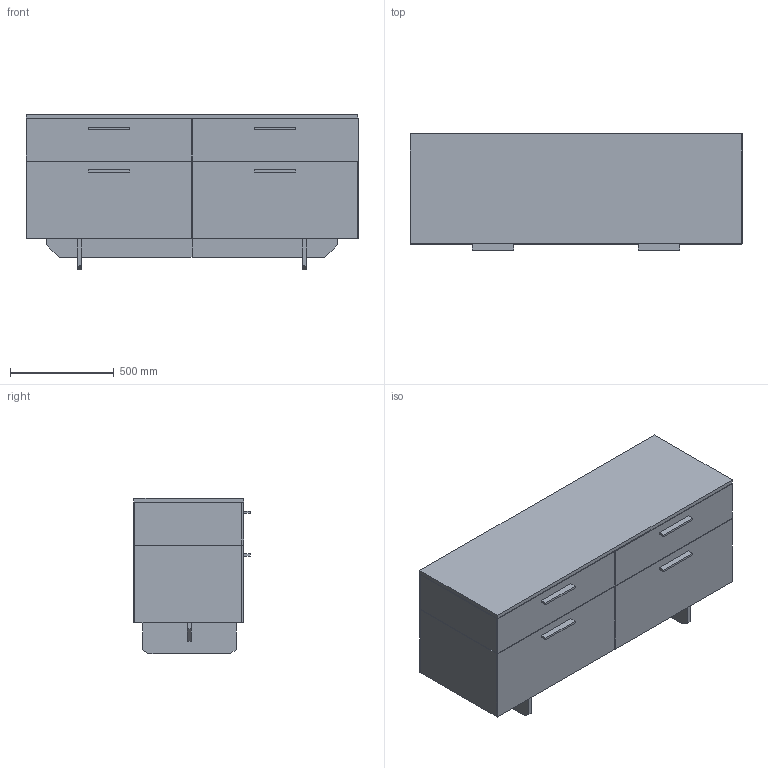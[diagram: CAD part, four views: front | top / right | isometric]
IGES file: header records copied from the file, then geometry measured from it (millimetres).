
Global section: file name: \\Archi-NAS\Comune\X GIOVANNI\MOBILI\ELEGNACE\ELEGANCE_glass_03.igs; native system: Rhinoceros ( Feb 23 2021 ); preprocessor: Trout Lake IGES 012 Feb 23 2021; date: 230607.143208; units: millimetre
Bounding box: 1600 x 560 x 750 mm (x, y, z)
Surface area: 17246361.3 mm2 (no closed solid volume)
Topology: 0 solids, 0 shells, 280 faces, 1648 edges, 1648 vertices
Faces by surface type: bspline 280
